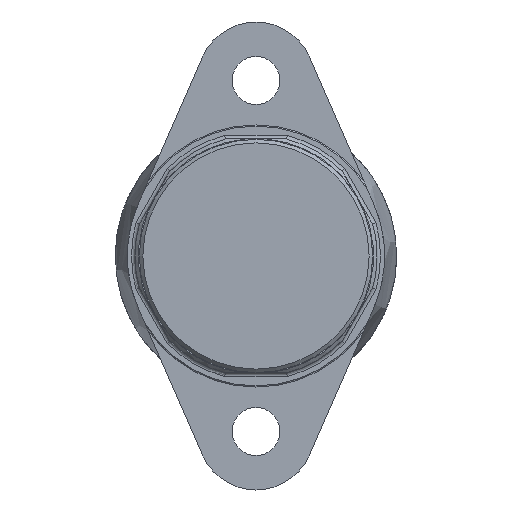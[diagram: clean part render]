
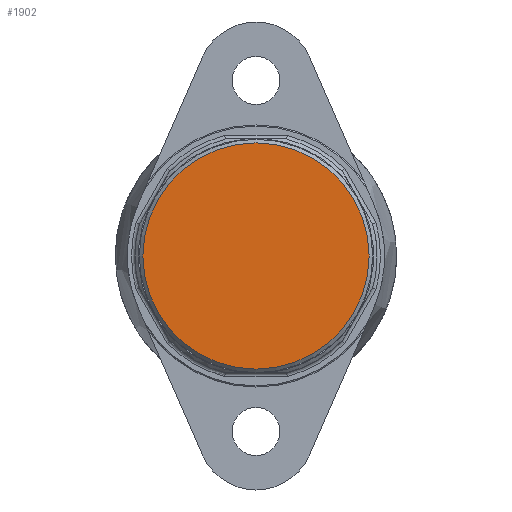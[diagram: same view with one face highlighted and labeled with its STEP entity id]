
A CAD part, left-side view. The second image highlights one B-rep face of the part: STEP entity #1902.
In plain terms, the highlighted planar face has unit normal (-1, 0, 0).
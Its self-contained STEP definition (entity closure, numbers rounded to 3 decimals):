
#1169=PLANE('',#6941);
#1512=FACE_OUTER_BOUND('',#2627,.T.);
#1902=ADVANCED_FACE('',(#1512),#1169,.T.);
#2627=EDGE_LOOP('',(#4309));
#4309=ORIENTED_EDGE('',*,*,#5985,.T.);
#5099=VERTEX_POINT('',#16405);
#5985=EDGE_CURVE('',#5099,#5099,#6331,.T.);
#6331=CIRCLE('',#6940,24.562);
#6940=AXIS2_PLACEMENT_3D('',#16404,#8301,#8302);
#6941=AXIS2_PLACEMENT_3D('',#16406,#8303,#8304);
#8301=DIRECTION('',(-1.,0.,0.));
#8302=DIRECTION('',(0.,1.,0.));
#8303=DIRECTION('',(-1.,0.,0.));
#8304=DIRECTION('',(0.,1.,0.));
#16404=CARTESIAN_POINT('',(-131.56,0.,0.));
#16405=CARTESIAN_POINT('',(-131.56,24.562,0.));
#16406=CARTESIAN_POINT('',(-131.56,0.,-20.53));
